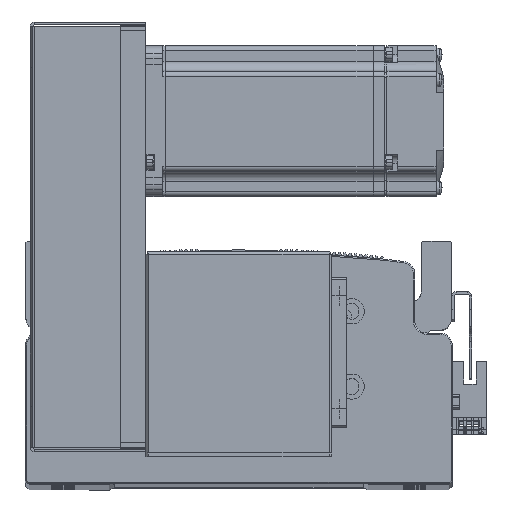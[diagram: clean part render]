
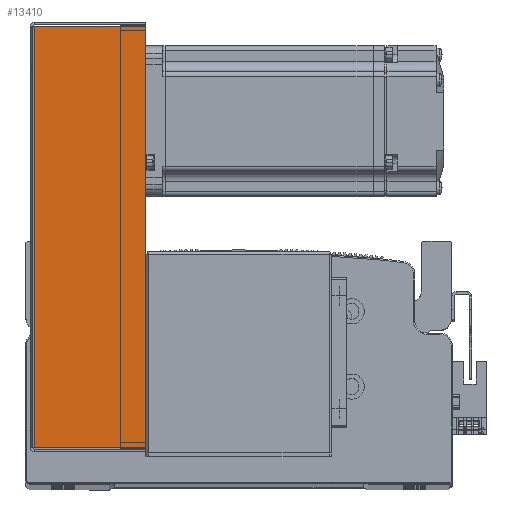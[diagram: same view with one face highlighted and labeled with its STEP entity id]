
A CAD part, top view. The second image highlights one B-rep face of the part: STEP entity #13410.
In plain terms, the highlighted planar face has unit normal (0, 0, 1) as drawn and (0, 0, -1) by its records, which use the part's own axes.
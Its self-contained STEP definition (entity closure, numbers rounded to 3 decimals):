
#6656 = DIRECTION ( 'NONE',  ( 0., 0., 1. ) ) ;
#6671 = DIRECTION ( 'NONE',  ( 0., -1., 0. ) ) ;
#6678 = PLANE ( 'NONE',  #23175 ) ;
#6679 = CARTESIAN_POINT ( 'NONE',  ( 0., 0., -40.5 ) ) ;
#13410 = ADVANCED_FACE ( 'NONE', ( #26925 ), #6678, .F. ) ;
#18841 = ORIENTED_EDGE ( 'NONE', *, *, #45208, .T. ) ;
#23175 = AXIS2_PLACEMENT_3D ( 'NONE', #6679, #6656, #6671 ) ;
#26925 = FACE_OUTER_BOUND ( 'NONE', #60553, .T. ) ;
#35202 = CARTESIAN_POINT ( 'NONE',  ( 84.5, 45., -40.5 ) ) ;
#35205 = DIRECTION ( 'NONE',  ( 1., 0., 0. ) ) ;
#35294 = CARTESIAN_POINT ( 'NONE',  ( 83.793, 0., -40.5 ) ) ;
#35308 = DIRECTION ( 'NONE',  ( 0., 1., 0. ) ) ;
#35332 = CARTESIAN_POINT ( 'NONE',  ( 0., 0.737, -40.5 ) ) ;
#35353 = DIRECTION ( 'NONE',  ( 1., 0., 0. ) ) ;
#35499 = DIRECTION ( 'NONE',  ( 0., 1., 0. ) ) ;
#35527 = CARTESIAN_POINT ( 'NONE',  ( -83.793, 0., -40.5 ) ) ;
#45208 = EDGE_CURVE ( 'NONE', #69753, #69683, #56055, .T. ) ;
#45239 = EDGE_CURVE ( 'NONE', #69727, #69683, #56074, .T. ) ;
#45251 = EDGE_CURVE ( 'NONE', #69765, #69727, #56076, .T. ) ;
#45291 = EDGE_CURVE ( 'NONE', #69765, #69753, #56145, .T. ) ;
#56026 = VECTOR ( 'NONE', #35205, 1000. ) ;
#56055 = LINE ( 'NONE', #35202, #56026 ) ;
#56074 = LINE ( 'NONE', #35294, #56107 ) ;
#56076 = LINE ( 'NONE', #35332, #56099 ) ;
#56099 = VECTOR ( 'NONE', #35353, 1000. ) ;
#56107 = VECTOR ( 'NONE', #35308, 1000. ) ;
#56123 = VECTOR ( 'NONE', #35499, 1000. ) ;
#56145 = LINE ( 'NONE', #35527, #56123 ) ;
#57157 = ORIENTED_EDGE ( 'NONE', *, *, #45239, .F. ) ;
#57159 = ORIENTED_EDGE ( 'NONE', *, *, #45251, .F. ) ;
#60553 = EDGE_LOOP ( 'NONE', ( #57159, #61668, #18841, #57157 ) ) ;
#61668 = ORIENTED_EDGE ( 'NONE', *, *, #45291, .T. ) ;
#69683 = VERTEX_POINT ( 'NONE', #78993 ) ;
#69727 = VERTEX_POINT ( 'NONE', #79014 ) ;
#69753 = VERTEX_POINT ( 'NONE', #79032 ) ;
#69765 = VERTEX_POINT ( 'NONE', #79038 ) ;
#78993 = CARTESIAN_POINT ( 'NONE',  ( 83.793, 45., -40.5 ) ) ;
#79014 = CARTESIAN_POINT ( 'NONE',  ( 83.793, 0.737, -40.5 ) ) ;
#79032 = CARTESIAN_POINT ( 'NONE',  ( -83.793, 45., -40.5 ) ) ;
#79038 = CARTESIAN_POINT ( 'NONE',  ( -83.793, 0.737, -40.5 ) ) ;
